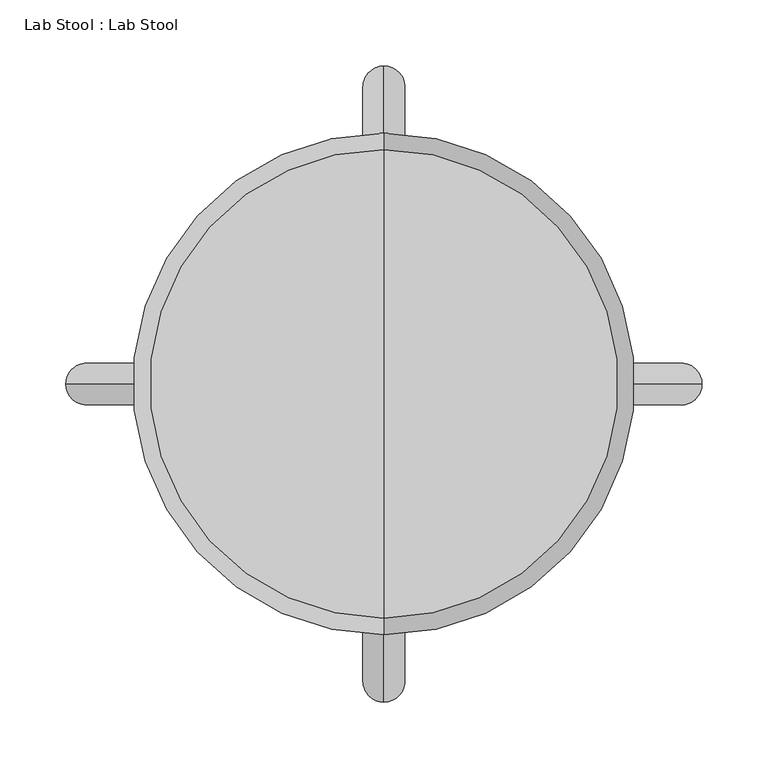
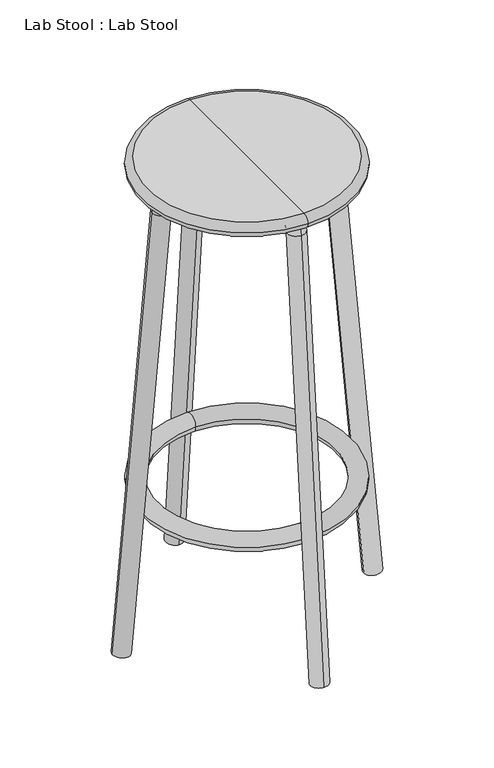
"""IFC4 building model written with IfcOpenShell, lengths in millimetres: furniture geometry, Lab Stool : Lab Stool."""

from ifc_helpers import new_model, si_unit, point, frame, origin, place, context, project, spatial, circle_curve, ellipse_curve, trimmed, source, transform, mapped, element, save
from ifc_brep_helpers import plane_surface, cylinder_surface, revolved_surface, advanced_brep


def lab_stool_lab_stool_9134c41a(model_context):
    return source(origin(), model_context, "Body", "AdvancedBrep", [
        advanced_brep(
        [(0.0, -190.040799, 253.5609407), (0.0, 190.040799, 253.5609407), (0.0, 158.290799, 253.5609407), (0.0, -158.290799, 253.5609407)],
        [
            (0, 1, circle_curve(frame((0.0, 0.0, 253.5609407), z_axis=(0.0, 0.0, 1.0), x_axis=(0.0, 1.0, 0.0)), 190.040799)),
            (1, 2, circle_curve(frame((0.0, 174.165799, 253.5609407), z_axis=(1.0, 0.0, 0.0), x_axis=(0.0, 1.0, 0.0)), 15.875)),
            (2, 3, circle_curve(frame((0.0, 0.0, 253.5609407), z_axis=(0.0, 0.0, -1.0), x_axis=(0.0, 1.0, 0.0)), 158.290799)),
            (3, 0, circle_curve(frame((0.0, -174.165799, 253.5609407), z_axis=(1.0, 0.0, 0.0), x_axis=(0.0, -1.0, 0.0)), 15.875)),
            (2, 1, circle_curve(frame((0.0, 174.165799, 253.5609407), z_axis=(1.0, 0.0, 0.0), x_axis=(0.0, 1.0, 0.0)), 15.875)),
            (0, 3, circle_curve(frame((0.0, -174.165799, 253.5609407), z_axis=(1.0, 0.0, 0.0), x_axis=(0.0, -1.0, 0.0)), 15.875)),
            (1, 0, circle_curve(frame((0.0, 0.0, 253.5609407), z_axis=(0.0, 0.0, 1.0), x_axis=(0.0, -1.0, 0.0)), 190.040799)),
            (3, 2, circle_curve(frame((0.0, 0.0, 253.5609407), z_axis=(0.0, 0.0, -1.0), x_axis=(0.0, -1.0, 0.0)), 158.290799)),
        ],
        [
            revolved_surface(trimmed(ellipse_curve(frame((0.0, 174.165799, 253.5609407), z_axis=(-1.0, 0.0, 0.0), x_axis=(0.0, 1.0, 0.0)), 15.875, 15.875), [point((0.0, 158.290799, 253.5609407))], [point((0.0, 190.040799, 253.5609407))], True, "CARTESIAN"), (0.0, 0.0, 254.0), (0.0, 0.0, -1.0)),
            revolved_surface(trimmed(ellipse_curve(frame((0.0, 174.165799, 253.5609407), z_axis=(-1.0, 0.0, 0.0), x_axis=(0.0, 1.0, 0.0)), 15.875, 15.875), [point((0.0, 190.040799, 253.5609407))], [point((0.0, 158.290799, 253.5609407))], True, "CARTESIAN"), (0.0, 0.0, 254.0), (0.0, 0.0, -1.0)),
            revolved_surface(trimmed(ellipse_curve(frame((0.0, -174.165799, 253.5609407), z_axis=(1.0, 0.0, 0.0), x_axis=(0.0, -1.0, 0.0)), 15.875, 15.875), [point((0.0, -158.290799, 253.5609407))], [point((0.0, -190.040799, 253.5609407))], True, "CARTESIAN"), (0.0, 0.0, 254.0), (0.0, 0.0, -1.0)),
            revolved_surface(trimmed(ellipse_curve(frame((0.0, -174.165799, 253.5609407), z_axis=(1.0, 0.0, 0.0), x_axis=(0.0, -1.0, 0.0)), 15.875, 15.875), [point((0.0, -190.040799, 253.5609407))], [point((0.0, -158.290799, 253.5609407))], True, "CARTESIAN"), (0.0, 0.0, 254.0), (0.0, 0.0, -1.0)),
        ],
        [
            (0, [[1, 2, 3, 4]]),
            (1, [[-3, 5, -1, 6]]),
            (2, [[7, -4, 8, -2]]),
            (3, [[-8, -6, -7, -5]]),
        ],
    ),
        advanced_brep(
        [(0.0, 0.0, 863.6), (0.0, 177.8, 863.6), (0.0, -177.8, 863.6), (0.0, -177.8, 838.2), (0.0, 177.8, 838.2), (0.0, 0.0, 838.2), (0.0, -190.5, 850.9), (0.0, 190.5, 850.9)],
        [
            (0, 1),
            (1, 2, circle_curve(frame((0.0, 0.0, 863.6), z_axis=(0.0, 0.0, 1.0), x_axis=(0.0, 1.0, 0.0)), 177.8)),
            (2, 0),
            (2, 1, circle_curve(frame((0.0, 0.0, 863.6), z_axis=(0.0, 0.0, 1.0), x_axis=(0.0, 1.0, 0.0)), 177.8)),
            (3, 4, circle_curve(frame((0.0, 0.0, 838.2), z_axis=(0.0, 0.0, -1.0), x_axis=(0.0, 1.0, 0.0)), 177.8)),
            (4, 5),
            (5, 3),
            (4, 3, circle_curve(frame((0.0, 0.0, 838.2), z_axis=(0.0, 0.0, -1.0), x_axis=(0.0, 1.0, 0.0)), 177.8)),
            (6, 7, circle_curve(frame((0.0, 0.0, 850.9), z_axis=(0.0, 0.0, -1.0), x_axis=(0.0, 1.0, 0.0)), 190.5)),
            (7, 4, circle_curve(frame((0.0, 177.8, 850.9), z_axis=(-1.0, 0.0, 0.0), x_axis=(0.0, 1.0, 0.0)), 12.7)),
            (3, 6, circle_curve(frame((0.0, -177.8, 850.9), z_axis=(-1.0, 0.0, 0.0), x_axis=(0.0, -1.0, 0.0)), 12.7)),
            (7, 6, circle_curve(frame((0.0, 0.0, 850.9), z_axis=(0.0, 0.0, -1.0), x_axis=(0.0, 1.0, 0.0)), 190.5)),
            (1, 7, circle_curve(frame((0.0, 177.8, 850.9), z_axis=(-1.0, 0.0, 0.0), x_axis=(0.0, 1.0, 0.0)), 12.7)),
            (6, 2, circle_curve(frame((0.0, -177.8, 850.9), z_axis=(-1.0, 0.0, 0.0), x_axis=(0.0, -1.0, 0.0)), 12.7)),
        ],
        [
            plane_surface(frame((0.0, 0.0, 863.6), z_axis=(0.0, 0.0, 1.0), x_axis=(0.0, 1.0, 0.0))),
            plane_surface(frame((0.0, 0.0, 838.2), z_axis=(0.0, 0.0, -1.0), x_axis=(0.0, 1.0, 0.0))),
            revolved_surface(trimmed(ellipse_curve(frame((0.0, 177.8, 850.9), z_axis=(1.0, 0.0, 0.0), x_axis=(0.0, 1.0, 0.0)), 12.7, 12.7), [point((0.0, 177.8, 838.2))], [point((0.0, 190.5, 850.9))], True, "CARTESIAN"), (0.0, 0.0, 914.4), (0.0, 0.0, 1.0)),
            revolved_surface(trimmed(ellipse_curve(frame((0.0, 177.8, 850.9), z_axis=(1.0, 0.0, 0.0), x_axis=(0.0, 1.0, 0.0)), 12.7, 12.7), [point((0.0, 190.5, 850.9))], [point((0.0, 177.8, 863.6))], True, "CARTESIAN"), (0.0, 0.0, 914.4), (0.0, 0.0, 1.0)),
        ],
        [
            (0, [[1, 2, 3]]),
            (0, [[-3, 4, -1]]),
            (1, [[5, 6, 7]]),
            (1, [[8, -7, -6]]),
            (2, [[9, 10, -5, 11]]),
            (2, [[12, -11, -8, -10]]),
            (3, [[-2, 13, -9, 14]]),
            (3, [[-4, -14, -12, -13]]),
        ],
    ),
        advanced_brep(
        [(0.0, -209.9184069, -1.3835974), (0.0, -241.5475886, 1.3835974), (0.0, -138.6139427, 813.6301584), (0.0, -170.2431243, 816.3973533), (0.0, -129.1251882, 854.075), (0.0, -129.1251882, 822.325), (0.0, 129.1251882, 822.325), (0.0, 129.1251882, 854.075), (0.0, 170.2431243, 816.3973533), (0.0, 138.6139427, 813.6301584), (0.0, 209.9184069, -1.3835974), (0.0, 241.5475886, 1.3835974)],
        [
            (0, 1, circle_curve(frame((0.0, -225.7329978, 0.0), z_axis=(0.0, -0.08715574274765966, -0.9961946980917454), x_axis=(0.0, -0.9961946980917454, 0.08715574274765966)), 15.875)),
            (1, 0, circle_curve(frame((0.0, -225.7329978, 0.0), z_axis=(0.0, -0.08715574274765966, -0.9961946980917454), x_axis=(0.0, -0.9961946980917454, 0.08715574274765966)), 15.875)),
            (0, 2),
            (2, 3, circle_curve(frame((0.0, -154.4285335, 815.0137559), z_axis=(0.0, -0.08715574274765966, -0.9961946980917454), x_axis=(0.0, -0.9961946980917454, 0.08715574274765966)), 15.875)),
            (3, 1),
            (3, 2, circle_curve(frame((0.0, -154.4285335, 815.0137559), z_axis=(0.0, -0.08715574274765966, -0.9961946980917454), x_axis=(0.0, -0.9961946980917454, 0.08715574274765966)), 15.875)),
            (4, 3, circle_curve(frame((0.0, -129.1251882, 812.8), z_axis=(1.0, 0.0, 0.0), x_axis=(0.0, -0.9961946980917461, 0.08715574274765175)), 41.275)),
            (2, 5, circle_curve(frame((0.0, -129.1251882, 812.8), z_axis=(-1.0, 0.0, 0.0), x_axis=(0.0, -0.9961946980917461, 0.08715574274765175)), 9.525)),
            (5, 4, circle_curve(frame((0.0, -129.1251882, 838.2), z_axis=(0.0, -1.0, 0.0), x_axis=(0.0, 0.0, 1.0)), 15.875)),
            (4, 5, circle_curve(frame((0.0, -129.1251882, 838.2), z_axis=(0.0, -1.0, 0.0), x_axis=(0.0, 0.0, 1.0)), 15.875)),
            (5, 6),
            (6, 7, circle_curve(frame((0.0, 129.1251882, 838.2), z_axis=(0.0, -1.0, 0.0), x_axis=(0.0, 0.0, 1.0)), 15.875)),
            (7, 4),
            (7, 6, circle_curve(frame((0.0, 129.1251882, 838.2), z_axis=(0.0, -1.0, 0.0), x_axis=(0.0, 0.0, 1.0)), 15.875)),
            (8, 7, circle_curve(frame((0.0, 129.1251882, 812.8), z_axis=(1.0, 0.0, 0.0), x_axis=(0.0, 0.0, 1.0)), 41.275)),
            (6, 9, circle_curve(frame((0.0, 129.1251882, 812.8), z_axis=(-1.0, 0.0, 0.0), x_axis=(0.0, 0.0, 1.0)), 9.525)),
            (9, 8, circle_curve(frame((0.0, 154.4285335, 815.0137559), z_axis=(0.0, -0.08715574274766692, 0.9961946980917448), x_axis=(0.0, 0.9961946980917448, 0.08715574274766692)), 15.875)),
            (8, 9, circle_curve(frame((0.0, 154.4285335, 815.0137559), z_axis=(0.0, -0.08715574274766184, 0.9961946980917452), x_axis=(0.0, 0.9961946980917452, 0.08715574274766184)), 15.875)),
            (10, 11, circle_curve(frame((0.0, 225.7329978, 0.0), z_axis=(0.0, 0.08715574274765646, -0.9961946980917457), x_axis=(0.0, 0.9961946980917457, 0.08715574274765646)), 15.875)),
            (11, 10, circle_curve(frame((0.0, 225.7329978, 0.0), z_axis=(0.0, 0.08715574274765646, -0.9961946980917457), x_axis=(0.0, 0.9961946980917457, 0.08715574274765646)), 15.875)),
            (9, 10),
            (11, 8),
        ],
        [
            plane_surface(frame((0.0, -241.5475886, 1.3835974), z_axis=(0.0, -0.08715574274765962, -0.9961946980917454), x_axis=(1.0, 0.0, 0.0))),
            cylinder_surface(frame((0.0, -225.7329978, 0.0), z_axis=(0.0, -0.08715574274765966, -0.9961946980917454), x_axis=(0.0, -0.9961946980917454, 0.08715574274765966)), 15.875),
            revolved_surface(trimmed(ellipse_curve(frame((0.0, -154.4285335, 815.0137559), z_axis=(0.0, -0.08715574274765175, -0.9961946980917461), x_axis=(0.0, -0.9961946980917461, 0.08715574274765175)), 15.875, 15.875), [point((0.0, -138.6139427, 813.6301584))], [point((0.0, -170.2431243, 816.3973533))], True, "CARTESIAN"), (0.0, -129.1251882, 812.8), (-1.0, 0.0, 0.0)),
            revolved_surface(trimmed(ellipse_curve(frame((0.0, -154.4285335, 815.0137559), z_axis=(0.0, -0.08715574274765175, -0.9961946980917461), x_axis=(0.0, -0.9961946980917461, 0.08715574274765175)), 15.875, 15.875), [point((0.0, -170.2431243, 816.3973533))], [point((0.0, -138.6139427, 813.6301584))], True, "CARTESIAN"), (0.0, -129.1251882, 812.8), (-1.0, 0.0, 0.0)),
            cylinder_surface(frame((0.0, -129.1251882, 838.2), z_axis=(0.0, -1.0, 0.0), x_axis=(0.0, 0.0, 1.0)), 15.875),
            revolved_surface(trimmed(ellipse_curve(frame((0.0, 129.1251882, 838.2), z_axis=(0.0, -1.0, 0.0), x_axis=(0.0, 0.0, 1.0)), 15.875, 15.875), [point((0.0, 129.1251882, 822.325))], [point((0.0, 129.1251882, 854.075))], True, "CARTESIAN"), (0.0, 129.1251882, 812.8), (-1.0, 0.0, 0.0)),
            revolved_surface(trimmed(ellipse_curve(frame((0.0, 129.1251882, 838.2), z_axis=(0.0, -1.0, 0.0), x_axis=(0.0, 0.0, 1.0)), 15.875, 15.875), [point((0.0, 129.1251882, 854.075))], [point((0.0, 129.1251882, 822.325))], True, "CARTESIAN"), (0.0, 129.1251882, 812.8), (-1.0, 0.0, 0.0)),
            plane_surface(frame((0.0, 241.5475886, 1.3835974), z_axis=(0.0, 0.08715574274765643, -0.9961946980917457), x_axis=(1.0, 0.0, 0.0))),
            cylinder_surface(frame((0.0, 154.4285335, 815.0137559), z_axis=(0.0, -0.08715574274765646, 0.9961946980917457), x_axis=(0.0, 0.9961946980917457, 0.08715574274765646)), 15.875),
        ],
        [
            (0, [[1, 2]]),
            (1, [[-1, 3, 4, 5]]),
            (1, [[-2, -5, 6, -3]]),
            (2, [[7, -4, 8, 9]]),
            (3, [[-8, -6, -7, 10]]),
            (4, [[-9, 11, 12, 13]]),
            (4, [[-10, -13, 14, -11]]),
            (5, [[15, -12, 16, 17]]),
            (6, [[-16, -14, -15, 18]]),
            (7, [[19, 20]]),
            (8, [[-17, 21, -20, 22]]),
            (8, [[-18, -22, -19, -21]]),
        ],
    ),
        advanced_brep(
        [(241.5475886, 0.0, 1.3835974), (209.9184069, 0.0, -1.3835974), (170.2431243, 0.0, 816.3973533), (138.6139427, 0.0, 813.6301584), (129.1251882, 0.0, 822.325), (129.1251882, 0.0, 854.075), (-129.1251882, 0.0, 854.075), (-129.1251882, 0.0, 822.325), (-138.6139427, 0.0, 813.6301584), (-170.2431243, 0.0, 816.3973533), (-241.5475886, 0.0, 1.3835974), (-209.9184069, 0.0, -1.3835974)],
        [
            (0, 1, circle_curve(frame((225.7329978, 0.0, 0.0), z_axis=(0.08715574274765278, 0.0, -0.996194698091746), x_axis=(-0.996194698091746, 0.0, -0.08715574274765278)), 15.875)),
            (1, 0, circle_curve(frame((225.7329978, 0.0, 0.0), z_axis=(0.08715574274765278, 0.0, -0.996194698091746), x_axis=(-0.996194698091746, 0.0, -0.08715574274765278)), 15.875)),
            (0, 2),
            (2, 3, circle_curve(frame((154.4285335, 0.0, 815.0137559), z_axis=(0.08715574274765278, 0.0, -0.996194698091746), x_axis=(-0.996194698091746, 0.0, -0.08715574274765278)), 15.875)),
            (3, 1),
            (3, 2, circle_curve(frame((154.4285335, 0.0, 815.0137559), z_axis=(0.08715574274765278, 0.0, -0.996194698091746), x_axis=(-0.996194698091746, 0.0, -0.08715574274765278)), 15.875)),
            (4, 3, circle_curve(frame((129.1251882, 0.0, 812.8), z_axis=(0.0, 1.0, 0.0), x_axis=(0.9961946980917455, 0.0, 0.08715574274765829)), 9.525)),
            (2, 5, circle_curve(frame((129.1251882, 0.0, 812.8), z_axis=(0.0, -1.0, 0.0), x_axis=(0.9961946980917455, 0.0, 0.08715574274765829)), 41.275)),
            (5, 4, circle_curve(frame((129.1251882, 0.0, 838.2), z_axis=(1.0, 0.0, 0.0), x_axis=(0.0, 0.0, -1.0)), 15.875)),
            (4, 5, circle_curve(frame((129.1251882, 0.0, 838.2), z_axis=(1.0, 0.0, 0.0), x_axis=(0.0, 0.0, -1.0)), 15.875)),
            (5, 6),
            (6, 7, circle_curve(frame((-129.1251882, 0.0, 838.2), z_axis=(1.0, 0.0, 0.0), x_axis=(0.0, 0.0, -1.0)), 15.875)),
            (7, 4),
            (7, 6, circle_curve(frame((-129.1251882, 0.0, 838.2), z_axis=(1.0, 0.0, 0.0), x_axis=(0.0, 0.0, -1.0)), 15.875)),
            (8, 7, circle_curve(frame((-129.1251882, 0.0, 812.8), z_axis=(0.0, 1.0, 0.0), x_axis=(0.0, 0.0, 1.0)), 9.525)),
            (6, 9, circle_curve(frame((-129.1251882, 0.0, 812.8), z_axis=(0.0, -1.0, 0.0), x_axis=(0.0, 0.0, 1.0)), 41.275)),
            (9, 8, circle_curve(frame((-154.4285335, 0.0, 815.0137559), z_axis=(0.08715574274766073, 0.0, 0.9961946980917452), x_axis=(0.9961946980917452, 0.0, -0.08715574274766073)), 15.875)),
            (8, 9, circle_curve(frame((-154.4285335, 0.0, 815.0137559), z_axis=(0.08715574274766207, 0.0, 0.9961946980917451), x_axis=(0.9961946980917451, 0.0, -0.08715574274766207)), 15.875)),
            (10, 11, circle_curve(frame((-225.7329978, 0.0, 0.0), z_axis=(-0.08715574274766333, 0.0, -0.9961946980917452), x_axis=(0.9961946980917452, 0.0, -0.08715574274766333)), 15.875)),
            (11, 10, circle_curve(frame((-225.7329978, 0.0, 0.0), z_axis=(-0.08715574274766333, 0.0, -0.9961946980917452), x_axis=(0.9961946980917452, 0.0, -0.08715574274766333)), 15.875)),
            (9, 10),
            (11, 8),
        ],
        [
            plane_surface(frame((225.7329978, -15.875, 0.0), z_axis=(0.08715574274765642, 0.0, -0.9961946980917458), x_axis=(0.9961946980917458, 0.0, 0.08715574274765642))),
            cylinder_surface(frame((225.7329978, 0.0, 0.0), z_axis=(0.08715574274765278, 0.0, -0.996194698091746), x_axis=(-0.996194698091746, 0.0, -0.08715574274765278)), 15.875),
            revolved_surface(trimmed(ellipse_curve(frame((154.4285335, 0.0, 815.0137559), z_axis=(0.08715574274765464, 0.0, -0.9961946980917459), x_axis=(-0.9961946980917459, 0.0, -0.08715574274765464)), 15.875, 15.875), [point((170.2431243, 0.0, 816.3973533))], [point((138.6139427, 0.0, 813.6301584))], True, "CARTESIAN"), (129.1251882, 0.0, 812.8), (0.0, -1.0, 0.0)),
            revolved_surface(trimmed(ellipse_curve(frame((154.4285335, 0.0, 815.0137559), z_axis=(0.08715574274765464, 0.0, -0.9961946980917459), x_axis=(-0.9961946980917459, 0.0, -0.08715574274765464)), 15.875, 15.875), [point((138.6139427, 0.0, 813.6301584))], [point((170.2431243, 0.0, 816.3973533))], True, "CARTESIAN"), (129.1251882, 0.0, 812.8), (0.0, -1.0, 0.0)),
            cylinder_surface(frame((129.1251882, 0.0, 838.2), z_axis=(1.0, 0.0, 0.0), x_axis=(0.0, 0.0, -1.0)), 15.875),
            revolved_surface(trimmed(ellipse_curve(frame((-129.1251882, 0.0, 838.2), z_axis=(1.0, 0.0, 0.0), x_axis=(0.0, 0.0, -1.0)), 15.875, 15.875), [point((-129.1251882, 0.0, 854.075))], [point((-129.1251882, 0.0, 822.325))], True, "CARTESIAN"), (-129.1251882, 0.0, 812.8), (0.0, -1.0, 0.0)),
            revolved_surface(trimmed(ellipse_curve(frame((-129.1251882, 0.0, 838.2), z_axis=(1.0, 0.0, 0.0), x_axis=(0.0, 0.0, -1.0)), 15.875, 15.875), [point((-129.1251882, 0.0, 822.325))], [point((-129.1251882, 0.0, 854.075))], True, "CARTESIAN"), (-129.1251882, 0.0, 812.8), (0.0, -1.0, 0.0)),
            plane_surface(frame((-225.7329978, 15.875, 0.0), z_axis=(-0.08715574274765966, 0.0, -0.9961946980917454), x_axis=(0.9961946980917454, 0.0, -0.08715574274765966))),
            cylinder_surface(frame((-154.4285335, 0.0, 815.0137559), z_axis=(0.08715574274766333, 0.0, 0.9961946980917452), x_axis=(0.9961946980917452, 0.0, -0.08715574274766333)), 15.875),
        ],
        [
            (0, [[1, 2]]),
            (1, [[-1, 3, 4, 5]]),
            (1, [[-2, -5, 6, -3]]),
            (2, [[7, -4, 8, 9]]),
            (3, [[-8, -6, -7, 10]]),
            (4, [[-9, 11, 12, 13]]),
            (4, [[-10, -13, 14, -11]]),
            (5, [[15, -12, 16, 17]]),
            (6, [[-16, -14, -15, 18]]),
            (7, [[19, 20]]),
            (8, [[-17, 21, -20, 22]]),
            (8, [[-18, -22, -19, -21]]),
        ],
    ),
    ])


if __name__ == "__main__":
    model = new_model("IFC4")
    model_context = context("Model", 3, world=origin())
    ifc_project = project(units=[si_unit("LENGTHUNIT", "METRE", prefix="MILLI")], contexts=[model_context])
    site = spatial("IfcSite", under=ifc_project)
    building = spatial("IfcBuilding", under=site)
    placement = place(None, origin())
    lab_stool_lab_stool_shape = lab_stool_lab_stool_9134c41a(model_context)
    element("IfcFurniture", 1, ObjectType="Lab Stool : Lab Stool", at=placement, inside=building, context=model_context, shape_type="MappedRepresentation", body=[
        mapped(lab_stool_lab_stool_shape, transform((0.0, 0.0, 0.0), x_axis=(1.0, 0.0, 0.0), y_axis=(0.0, 1.0, 0.0), z_axis=(0.0, 0.0, 1.0))),
    ])
    save(model, "model.ifc")
